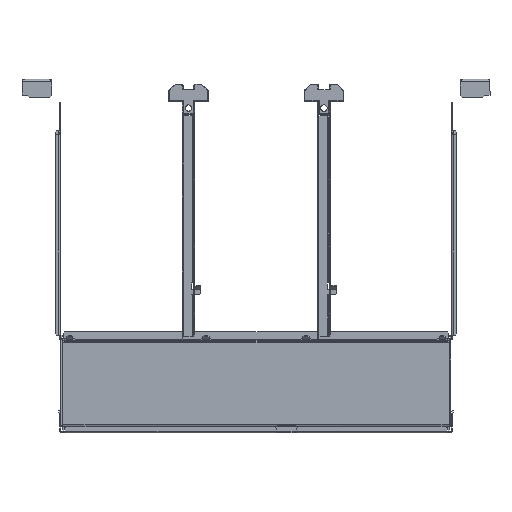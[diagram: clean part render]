
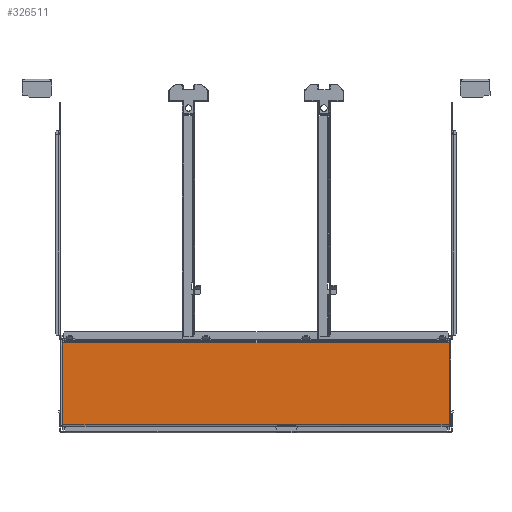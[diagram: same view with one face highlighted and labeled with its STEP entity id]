
A CAD part, front view. The second image highlights one B-rep face of the part: STEP entity #326511.
In plain terms, the highlighted planar face has unit normal (0, -1, 0).
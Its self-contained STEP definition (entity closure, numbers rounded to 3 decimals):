
#312271=CARTESIAN_POINT(' ',(-245.,-95.,0.6));
#312272=VERTEX_POINT(' ',#312271);
#315376=CARTESIAN_POINT(' ',(27.,-95.,0.6));
#315381=DIRECTION(' ',(-1.,0.,0.));
#315386=VECTOR(' ',#315381,1.);
#315391=LINE('',#315376,#315386);
#315396=CARTESIAN_POINT(' ',(27.,-95.,0.6));
#315397=VERTEX_POINT(' ',#315396);
#315401=EDGE_CURVE(' ',#315397,#312272,#315391,.T.);
#315521=CARTESIAN_POINT(' ',(50.,-95.,0.6));
#315522=VERTEX_POINT(' ',#315521);
#315576=CARTESIAN_POINT(' ',(245.,-95.,0.6));
#315577=VERTEX_POINT(' ',#315576);
#315591=CARTESIAN_POINT(' ',(245.,-95.,0.6));
#315596=DIRECTION(' ',(-1.,0.,0.));
#315601=VECTOR(' ',#315596,1.);
#315606=LINE('',#315591,#315601);
#315611=EDGE_CURVE(' ',#315577,#315522,#315606,.T.);
#316711=CARTESIAN_POINT(' ',(-245.,-95.,0.6));
#316716=DIRECTION(' ',(0.,0.,1.));
#316721=VECTOR(' ',#316716,1.);
#316726=LINE('',#316711,#316721);
#316731=CARTESIAN_POINT(' ',(-245.,-95.,104.4));
#316732=VERTEX_POINT(' ',#316731);
#316736=EDGE_CURVE(' ',#312272,#316732,#316726,.T.);
#326296=DIRECTION(' ',(-0.,-1.,0.));
#326301=CARTESIAN_POINT(' ',(-245.,-95.,0.6));
#326306=DIRECTION(' ',(1.,0.,-0.));
#326311=AXIS2_PLACEMENT_3D(' ',#326301,#326296,#326306);
#326316=PLANE('NONE',#326311);
#326321=CARTESIAN_POINT(' ',(27.,-95.,1.));
#326326=DIRECTION(' ',(0.,0.,-1.));
#326331=VECTOR(' ',#326326,1.);
#326336=LINE('',#326321,#326331);
#326341=CARTESIAN_POINT(' ',(27.,-95.,1.));
#326342=VERTEX_POINT(' ',#326341);
#326346=EDGE_CURVE(' ',#326342,#315397,#326336,.T.);
#326351=ORIENTED_EDGE(' ',*,*,#326346,.F.);
#326356=CARTESIAN_POINT(' ',(50.,-95.,1.));
#326361=DIRECTION(' ',(-1.,0.,0.));
#326366=VECTOR(' ',#326361,1.);
#326371=LINE('',#326356,#326366);
#326376=CARTESIAN_POINT(' ',(50.,-95.,1.));
#326377=VERTEX_POINT(' ',#326376);
#326381=EDGE_CURVE(' ',#326377,#326342,#326371,.T.);
#326386=ORIENTED_EDGE(' ',*,*,#326381,.F.);
#326391=CARTESIAN_POINT(' ',(50.,-95.,1.));
#326396=DIRECTION(' ',(0.,0.,-1.));
#326401=VECTOR(' ',#326396,1.);
#326406=LINE('',#326391,#326401);
#326411=EDGE_CURVE(' ',#326377,#315522,#326406,.T.);
#326416=ORIENTED_EDGE(' ',*,*,#326411,.T.);
#326421=ORIENTED_EDGE(' ',*,*,#315611,.F.);
#326426=CARTESIAN_POINT(' ',(245.,-95.,0.6));
#326431=DIRECTION(' ',(0.,0.,1.));
#326436=VECTOR(' ',#326431,1.);
#326441=LINE('',#326426,#326436);
#326446=CARTESIAN_POINT(' ',(245.,-95.,104.4));
#326447=VERTEX_POINT(' ',#326446);
#326451=EDGE_CURVE(' ',#315577,#326447,#326441,.T.);
#326456=ORIENTED_EDGE(' ',*,*,#326451,.T.);
#326461=CARTESIAN_POINT(' ',(245.,-95.,104.4));
#326466=DIRECTION(' ',(-1.,0.,0.));
#326471=VECTOR(' ',#326466,1.);
#326476=LINE('',#326461,#326471);
#326481=EDGE_CURVE(' ',#326447,#316732,#326476,.T.);
#326486=ORIENTED_EDGE(' ',*,*,#326481,.T.);
#326491=ORIENTED_EDGE(' ',*,*,#316736,.F.);
#326496=ORIENTED_EDGE(' ',*,*,#315401,.F.);
#326501=EDGE_LOOP(' ',(#326351,#326386,#326416,#326421,#326456,#326486,#326491,#326496));
#326506=FACE_OUTER_BOUND(' ',#326501,.T.);
#326511=ADVANCED_FACE('NONE',(#326506),#326316,.T.);
